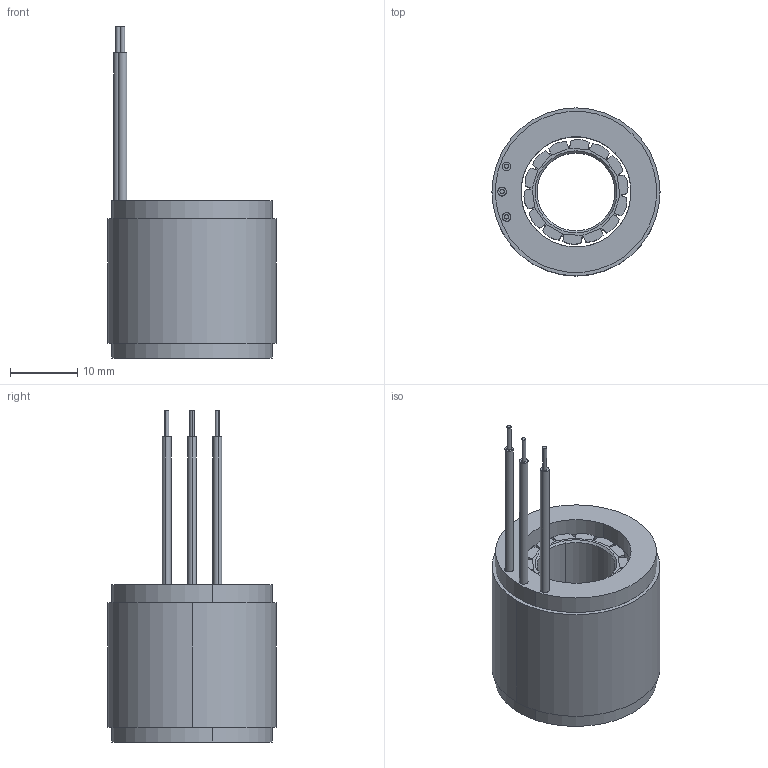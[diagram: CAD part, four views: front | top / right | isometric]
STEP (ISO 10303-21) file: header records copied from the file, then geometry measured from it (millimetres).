
FILE_DESCRIPTION (( 'STEP AP214' ), '1' );
FILE_NAME ('2523µç»ú-ÐÂ.STEP', '2025-02-20T03:36:22', ( '' ), ( '' ), 'SwSTEP 2.0', 'SolidWorks 2023', '' );
FILE_SCHEMA (( 'AUTOMOTIVE_DESIGN' ));
Length unit declared in the file: millimetre
Products named in the file (1): 2523电机-新
Bounding box: 25 x 25 x 49.4 mm (x, y, z)
Surface area: 8153.2 mm2 (no closed solid volume)
Topology: 0 solids, 21 shells, 103 faces, 554 edges, 468 vertices
Faces by surface type: plane 70, cylinder 29, cone 4
Entity records: 5474 total; most frequent: CARTESIAN_POINT 1126, DIRECTION 942, ORIENTED_EDGE 702, EDGE_CURVE 554, VERTEX_POINT 468, LINE 374, VECTOR 374, AXIS2_PLACEMENT_3D 284
